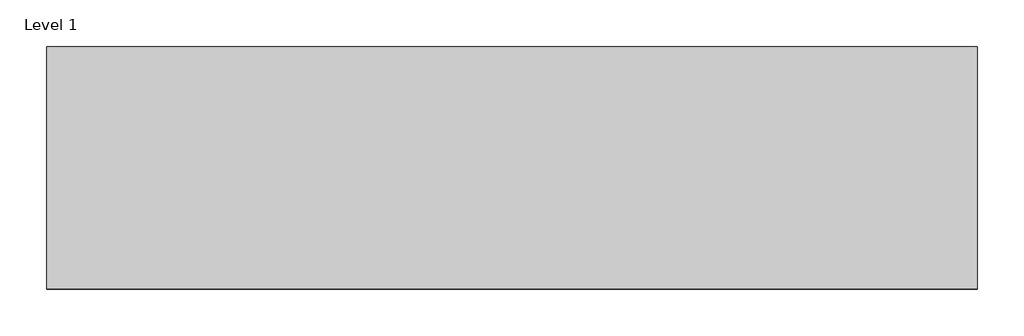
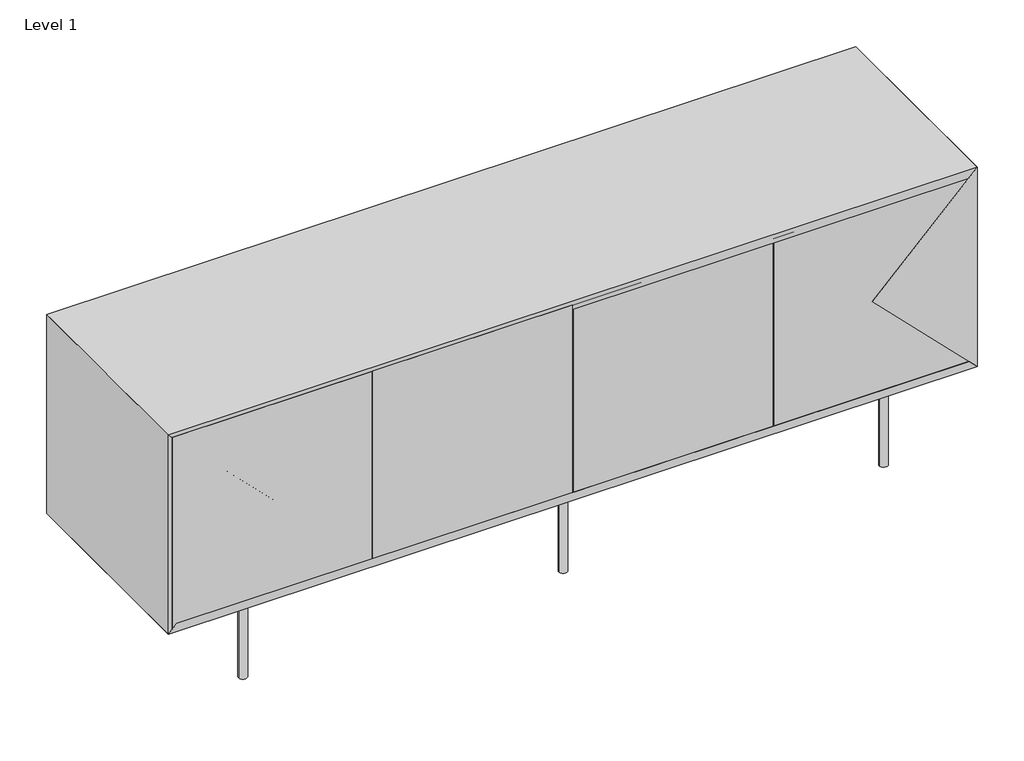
# One storey: 1 proxy.
"""IFC4 building model written with IfcOpenShell, lengths in millimetres."""

from ifc_helpers import new_model, si_unit, origin, place, context, project, spatial, transform, mapped, element, save
from components import generic_models_fd7c845a

model = new_model("IFC4")

# Units and contexts
model_context = context("Model", 3, world=origin())
ifc_project = project(units=[si_unit("LENGTHUNIT", "METRE", prefix="MILLI")], contexts=[model_context])

# Site, building, storey
site = spatial("IfcSite", under=ifc_project)
building = spatial("IfcBuilding", under=site)
storey = spatial("IfcBuildingStorey", under=building, Name="Level 1", Elevation=0.0)

# Proxy
placement = place(None, origin())
generic_models_shape = generic_models_fd7c845a(model_context)
element("IfcBuildingElementProxy", 1, Name="PARAGON^CREDENZA 1_35x96 4 DOORS-PARTS SOLID", ObjectType="PARAGON^CREDENZA 1_35x96 4 DOORS-PARTS SOLID", at=placement, inside=storey, context=model_context, shape_type="MappedRepresentation", body=[
    mapped(generic_models_shape, transform((0.0, 0.0, 254.0), x_axis=(1.0, 0.0, 0.0), y_axis=(0.0, 0.0, 1.0), z_axis=(0.0, -1.0, 0.0))),
])

save(model, "model.ifc")
